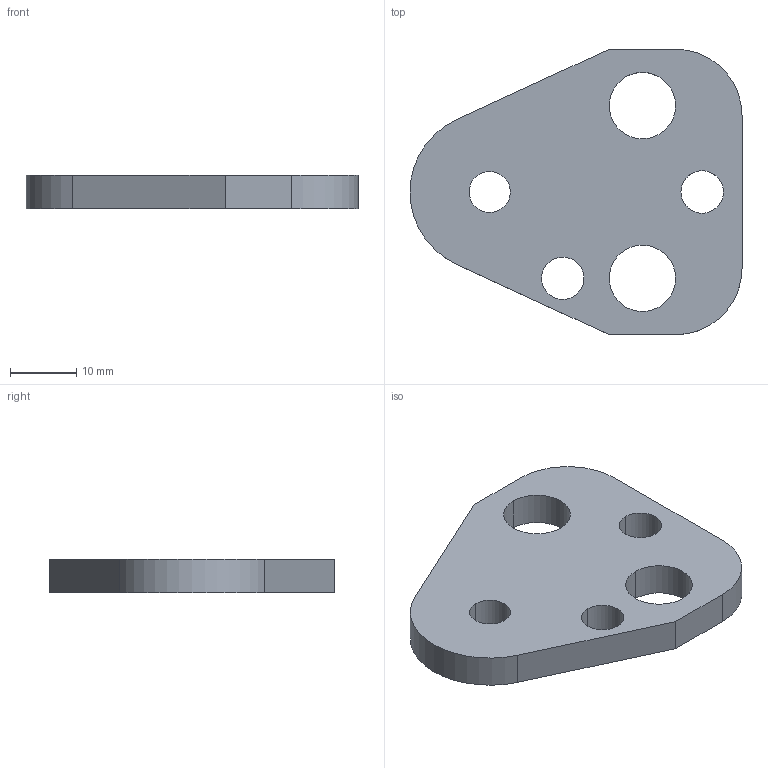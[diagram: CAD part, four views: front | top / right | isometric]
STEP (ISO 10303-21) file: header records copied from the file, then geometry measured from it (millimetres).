
FILE_DESCRIPTION(/* description */ (''),/* implementation_level */ '2;1');
FILE_NAME(/* name */ '3d_bpc13_03419_r00.stp',/* time_stamp */ '2011-01-10T14:17:10+09:00',/* author */ ('MISUMI'),/* organization */ (''),/* preprocessor_version */ 'ST-DEVELOPER v11',/* originating_system */ 'UGS - NX 5.0',/* authorisation */ '');
FILE_SCHEMA (('CONFIG_CONTROL_DESIGN'));
Length unit declared in the file: millimetre
Products named in the file (1): 3d_bpc13_03419_r00
Bounding box: 50 x 43 x 5 mm (x, y, z)
Volume: 7103.2 mm3; surface area: 4216.1 mm2
Topology: 1 solids, 1 shells, 20 faces, 54 edges, 36 vertices
Faces by surface type: cylinder 13, plane 7
Entity records: 750 total; most frequent: DIRECTION 122, CARTESIAN_POINT 111, ORIENTED_EDGE 108, EDGE_CURVE 54, AXIS2_PLACEMENT_3D 47, VERTEX_POINT 36, EDGE_LOOP 30, LINE 28
